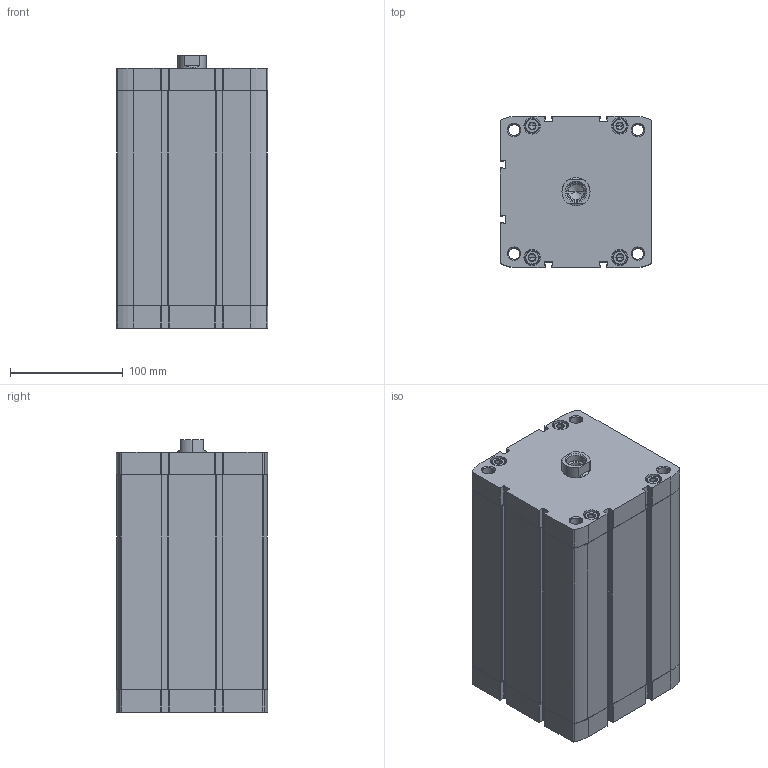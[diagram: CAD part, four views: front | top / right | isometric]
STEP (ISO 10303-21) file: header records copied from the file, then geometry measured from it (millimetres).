
FILE_DESCRIPTION (( 'STEP AP203' ), '1' );
FILE_NAME ('CCN125-150F.STEP', '2020-06-05T19:30:17', ( '' ), ( '' ), 'SwSTEP 2.0', 'SolidWorks 2019', '' );
FILE_SCHEMA (( 'CONFIG_CONTROL_DESIGN' ));
Length unit declared in the file: millimetre
Products named in the file (1): CCN125-150F
Bounding box: 134.6 x 134.6 x 242 mm (x, y, z)
Volume: 2233336.2 mm3; surface area: 360556.2 mm2
Topology: 2 solids, 2 shells, 535 faces, 1370 edges, 861 vertices
Faces by surface type: plane 267, cylinder 194, cone 74
Entity records: 17215 total; most frequent: CARTESIAN_POINT 3931, DIRECTION 2876, ORIENTED_EDGE 2704, EDGE_CURVE 1352, AXIS2_PLACEMENT_3D 1054, VERTEX_POINT 861, LINE 768, VECTOR 768
